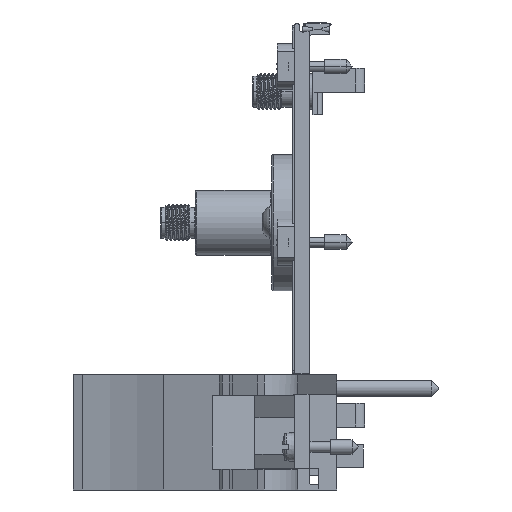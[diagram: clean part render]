
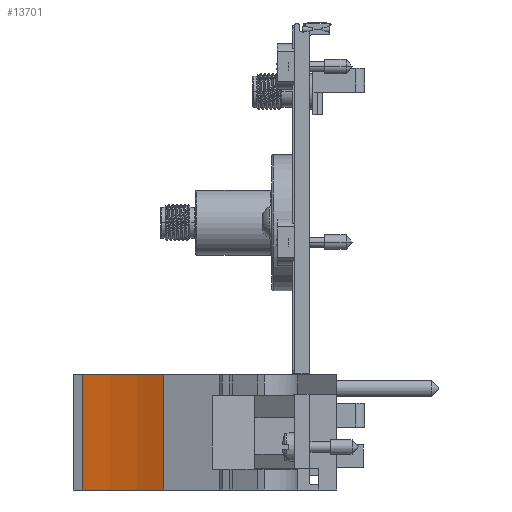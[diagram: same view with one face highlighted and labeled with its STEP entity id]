
A CAD part, front view. The second image highlights one B-rep face of the part: STEP entity #13701.
In plain terms, the highlighted cylindrical face has radius 51.46 mm (diameter 102.919 mm), a partial arc.
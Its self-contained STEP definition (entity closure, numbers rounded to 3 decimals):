
#2409=CARTESIAN_POINT('',(-295.817,-12.432,-101.346));
#2410=DIRECTION('',(0.,0.,1.));
#2411=DIRECTION('',(0.435,0.9,0.));
#2412=AXIS2_PLACEMENT_3D('',#2409,#2410,#2411);
#2549=DIRECTION('',(0.,0.,1.));
#2550=VECTOR('',#2549,20.015);
#2551=CARTESIAN_POINT('',(-273.432,33.904,
-101.346));
#2552=LINE('',#2551,#2550);
#2553=DIRECTION('',(0.,0.,-1.));
#2554=VECTOR('',#2553,20.015);
#2555=CARTESIAN_POINT('',(-287.604,38.368,-81.331));
#2556=LINE('',#2555,#2554);
#2670=CARTESIAN_POINT('',(-295.817,-12.432,-81.331));
#2671=DIRECTION('',(0.,0.,-1.));
#2672=DIRECTION('',(0.16,0.987,0.));
#2673=AXIS2_PLACEMENT_3D('',#2670,#2671,#2672);
#9646=CARTESIAN_POINT('',(-287.604,38.368,-101.346));
#9647=VERTEX_POINT('',#9646);
#9648=CARTESIAN_POINT('',(-273.432,33.904,
-101.346));
#9649=VERTEX_POINT('',#9648);
#9720=CARTESIAN_POINT('',(-273.432,33.904,
-81.331));
#9721=VERTEX_POINT('',#9720);
#9722=CARTESIAN_POINT('',(-287.604,38.368,-81.331));
#9723=VERTEX_POINT('',#9722);
#13688=CARTESIAN_POINT('',(-295.817,-12.432,-101.746));
#13689=DIRECTION('',(0.,0.,1.));
#13690=DIRECTION('',(0.,1.,0.));
#13691=AXIS2_PLACEMENT_3D('',#13688,#13689,#13690);
#13692=CYLINDRICAL_SURFACE('',#13691,51.46);
#13693=ORIENTED_EDGE('',*,*,#13673,.F.);
#13694=ORIENTED_EDGE('',*,*,#13516,.T.);
#13696=ORIENTED_EDGE('',*,*,#13695,.F.);
#13698=ORIENTED_EDGE('',*,*,#13697,.T.);
#13699=EDGE_LOOP('',(#13693,#13694,#13696,#13698));
#13700=FACE_OUTER_BOUND('',#13699,.F.);
#13701=ADVANCED_FACE('',(#13700),#13692,.F.);
#2413=CIRCLE('',#2412,51.46);
#2674=CIRCLE('',#2673,51.46);
#13516=EDGE_CURVE('',#9649,#9647,#2413,.T.);
#13673=EDGE_CURVE('',#9649,#9721,#2552,.T.);
#13695=EDGE_CURVE('',#9723,#9647,#2556,.T.);
#13697=EDGE_CURVE('',#9723,#9721,#2674,.T.);
